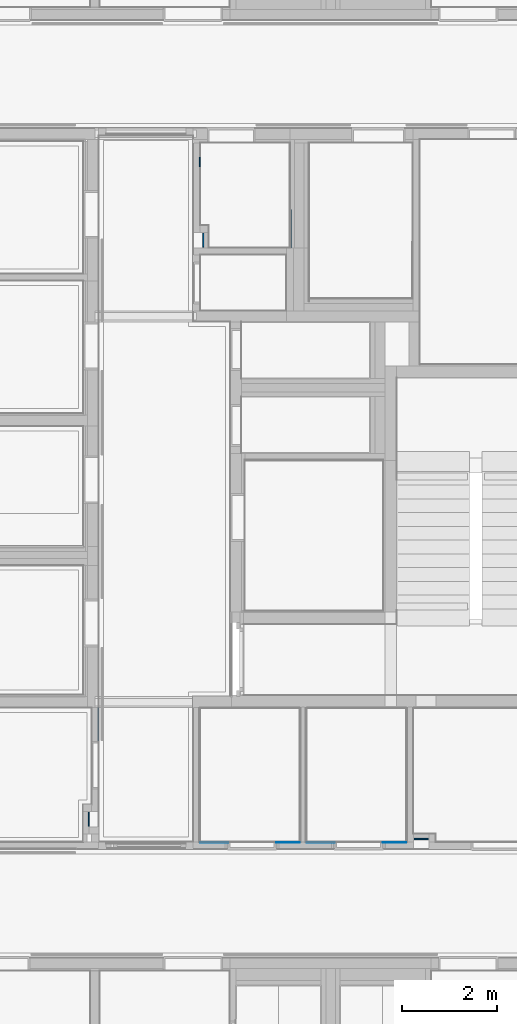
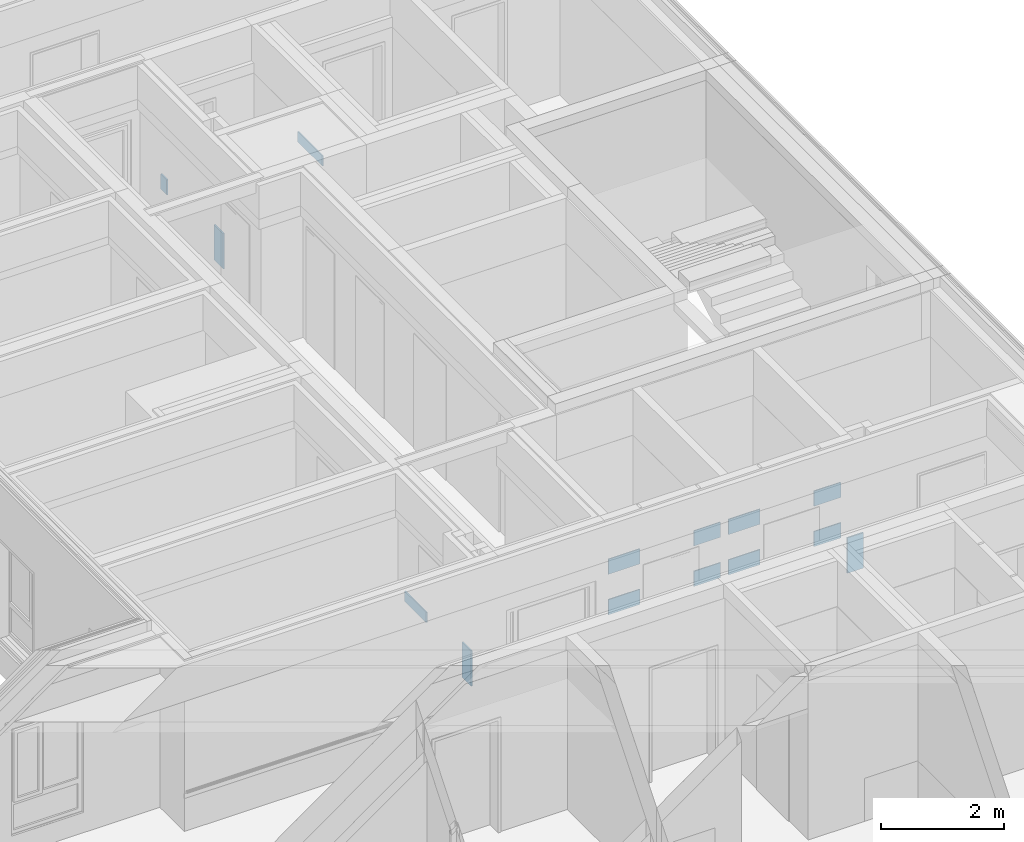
# One storey, part 152 of 222: 14 walls.
"""IFC4 building model written with IfcOpenShell, lengths in metres."""

import ifcopenshell
import ifcopenshell.guid

model = None  # the IFC model being written
_history = None  # IfcOwnerHistory: only IFC2X3 demands one
_inside = {}  # id of a spatial element -> (the spatial element, [elements in it])
_under = {}  # id of a project, library or spatial element -> (it, [spatial elements below it])
_declared = {}  # id of a project -> (the project, [libraries it declares])
_typed = {}  # id of a type object -> (the type object, [elements of that type])
_made_of = {}  # id of a material, layer set ... -> (it, [elements and type objects made of it])


def new_model(schema):
    """Start an empty IFC model of exactly this schema.

    Asked for "IFC4X3", IfcOpenShell would pick the latest addendum, in which some entities
    have other attributes; the version numbers below select the first issue.
    IFC2X3 requires an IfcOwnerHistory on every rooted entity: one is made here for all.
    """
    global model, _history
    if schema == "IFC4X3":
        model = ifcopenshell.file(schema_version=(4, 3, 0, 0))
    else:
        model = ifcopenshell.file(schema=schema)
    _inside.clear()
    _under.clear()
    _declared.clear()
    _typed.clear()
    _made_of.clear()
    _history = None
    if model.schema == "IFC2X3":
        org = make("IfcOrganization", Name="unknown")
        user = make(
            "IfcPersonAndOrganization",
            ThePerson=make("IfcPerson", FamilyName="unknown"),
            TheOrganization=org,
        )
        app = make(
            "IfcApplication",
            ApplicationDeveloper=org,
            Version="unknown",
            ApplicationFullName="unknown",
            ApplicationIdentifier="unknown",
        )
        _history = make(
            "IfcOwnerHistory",
            OwningUser=user,
            OwningApplication=app,
            ChangeAction="ADDED",
            CreationDate=0,
        )
    return model


def make(cls, **values):
    """One entity of the class cls with the attributes given. An attribute that is None is left unset."""
    return model.create_entity(
        cls, **{name: value for name, value in values.items() if value is not None}
    )


def entity(cls, *values):
    """Any entity or typed value of the class cls, its attributes in the order of the schema. None: left unset."""
    e = model.create_entity(cls)
    for i, value in enumerate(values):
        if value is not None:
            e[i] = value
    return e


def rooted(cls, **values):
    """An entity with a GlobalId (a new one), such as an element, a storey or a relation."""
    return make(cls, GlobalId=ifcopenshell.guid.new(), OwnerHistory=_history, **values)


def si_unit(unit_type, name, prefix=None):
    """IfcSIUnit, for example si_unit("LENGTHUNIT", "METRE", prefix="MILLI")."""
    return make("IfcSIUnit", UnitType=unit_type, Prefix=prefix, Name=name)


def converted_unit(unit_type, name, factor, base, dimensions=None, offset=None):
    """IfcConversionBasedUnit, such as the inch: factor (a typed value) times the base unit."""
    return make(
        "IfcConversionBasedUnit"
        if offset is None
        else "IfcConversionBasedUnitWithOffset",
        ConversionOffset=offset,
        Dimensions=None
        if dimensions is None
        else entity("IfcDimensionalExponents", *dimensions),
        UnitType=unit_type,
        Name=name,
        ConversionFactor=make(
            "IfcMeasureWithUnit", ValueComponent=factor, UnitComponent=base
        ),
    )


def derived_unit(unit_type, elements):
    """IfcDerivedUnit: a product of units, each with its exponent."""
    return make(
        "IfcDerivedUnit",
        Elements=[
            make("IfcDerivedUnitElement", Unit=unit, Exponent=power)
            for unit, power in elements
        ],
        UnitType=unit_type,
    )


def assignment(units):
    """IfcUnitAssignment: the units of a project."""
    return None if units is None else make("IfcUnitAssignment", Units=units)


def point(xyz):
    """IfcCartesianPoint."""
    return None if xyz is None else make("IfcCartesianPoint", Coordinates=xyz)


def direction(xyz):
    """IfcDirection."""
    return None if xyz is None else make("IfcDirection", DirectionRatios=xyz)


def frame(location, z_axis=None, x_axis=None):
    """IfcAxis2Placement3D, a coordinate frame: its origin and axes. An axis left out is left unset."""
    return make(
        "IfcAxis2Placement3D",
        Location=point(location),
        Axis=direction(z_axis),
        RefDirection=direction(x_axis),
    )


def origin():
    """The frame at (0, 0, 0) with its axes left unset."""
    return frame((0.0, 0.0, 0.0))


def place(relative_to, where):
    """IfcLocalPlacement: puts the frame where relative to a parent placement (None: the world)."""
    return make(
        "IfcLocalPlacement", PlacementRelTo=relative_to, RelativePlacement=where
    )


def context(
    kind, dimensions, precision=None, world=None, true_north=None, identifier=None
):
    """IfcGeometricRepresentationContext, for example the 3D "Model" context."""
    return make(
        "IfcGeometricRepresentationContext",
        ContextIdentifier=identifier,
        ContextType=kind,
        CoordinateSpaceDimension=dimensions,
        Precision=precision,
        WorldCoordinateSystem=world,
        TrueNorth=true_north,
    )


def subcontext(parent, identifier, kind, view, scale=None):
    """IfcGeometricRepresentationSubContext, for example "Body" below "Model"."""
    return make(
        "IfcGeometricRepresentationSubContext",
        ContextIdentifier=identifier,
        ContextType=kind,
        ParentContext=parent,
        TargetScale=scale,
        TargetView=view,
    )


def project(units=None, contexts=None):
    """IfcProject with its units and contexts."""
    return rooted(
        "IfcProject",
        Name="project",
        RepresentationContexts=contexts,
        UnitsInContext=assignment(units),
    )


def spatial(cls, under=None, at=None, **own):
    """A site, building, storey or space (cls), placed at a placement, below another one or the project."""
    s = rooted(cls, ObjectPlacement=at, **own)
    if under is not None:
        _under.setdefault(under.id(), (under, []))[1].append(s)
    return s


def faces_of(points, faces, orient=None, outer=None):
    """IfcFace entities. A face is a list of loops; a loop is a list of indices into points, from 0.

    orient and outer hold one flag for each loop. By default every Orientation is true, the
    first loop of a face is its IfcFaceOuterBound and the others are IfcFaceBound.
    """
    made = []
    for i, loops in enumerate(faces):
        bounds = []
        for j, loop in enumerate(loops):
            is_outer = j == 0 if outer is None else outer[i][j]
            bounds.append(
                make(
                    "IfcFaceOuterBound" if is_outer else "IfcFaceBound",
                    Bound=make("IfcPolyLoop", Polygon=[points[k] for k in loop]),
                    Orientation=True if orient is None else orient[i][j],
                )
            )
        made.append(make("IfcFace", Bounds=bounds))
    return made


def faceted_brep(points, faces, orient=None, outer=None, voids=None):
    """IfcFacetedBrep: a solid bounded by flat faces; with voids (closed shells), ...WithVoids."""
    shared = [point(p) for p in points]
    hull = make("IfcClosedShell", CfsFaces=faces_of(shared, faces, orient, outer))
    if voids is None:
        return make("IfcFacetedBrep", Outer=hull)
    return make(
        "IfcFacetedBrepWithVoids",
        Outer=hull,
        Voids=[
            make(cls, CfsFaces=faces_of(shared, fs, o, b)) for cls, fs, o, b in voids
        ],
    )


def shape(context_of_items, identifier, shape_type, items):
    """IfcShapeRepresentation: the items that make up one representation, for example the "Body"."""
    return make(
        "IfcShapeRepresentation",
        ContextOfItems=context_of_items,
        RepresentationIdentifier=identifier,
        RepresentationType=shape_type,
        Items=items,
    )


def made_of(thing, what):
    """Note that an element or type object is made of a material, layer set ...; save() writes the relation."""
    if what is not None:
        _made_of.setdefault(what.id(), (what, []))[1].append(thing)
    return thing


def element(
    cls,
    number,
    at=None,
    inside=None,
    cuts=None,
    type_object=None,
    material=None,
    context=None,
    identifier="Body",
    shape_type=None,
    held_by="IfcProductDefinitionShape",
    body=None,
    shapes=None,
    **own,
):
    """One element of the class cls, such as IfcWall. Its Tag is "e" and its number.

    at: its placement. inside: the storey or other place that contains it. cuts: it is an
    opening in that element (IfcRelVoidsElement). A single representation is given by context,
    identifier, shape_type and body (its items); several are given by shapes. held_by: the class
    of the entity that holds the representations. save() writes the other relations.
    """
    e = rooted(cls, Tag="e%d" % number, ObjectPlacement=at, **own)
    if body is not None:
        shapes = [shape(context, identifier, shape_type, body)]
    if shapes is not None:
        e.Representation = make(held_by, Representations=shapes)
    if inside is not None:
        _inside.setdefault(inside.id(), (inside, []))[1].append(e)
    if cuts is not None:
        rooted(
            "IfcRelVoidsElement", RelatingBuildingElement=cuts, RelatedOpeningElement=e
        )
    if type_object is not None:
        _typed.setdefault(type_object.id(), (type_object, []))[1].append(e)
    return made_of(e, material)


def aggregate(whole, parts):
    """IfcRelAggregates: a whole, such as a stair, and the parts it consists of."""
    return rooted("IfcRelAggregates", RelatingObject=whole, RelatedObjects=parts)


def save(model, path):
    """Write the relations noted so far, then the file.

    IfcRelAggregates (storeys below a building ...), IfcRelContainedInSpatialStructure (elements
    in a storey), IfcRelDefinesByType, IfcRelAssociatesMaterial and IfcRelDeclares: one each for
    every whole, place, type object, material and project.
    """
    for whole, parts in _under.values():
        aggregate(whole, parts)
    for where, things in _inside.values():
        rooted(
            "IfcRelContainedInSpatialStructure",
            RelatedElements=things,
            RelatingStructure=where,
        )
    for kind, things in _typed.values():
        rooted("IfcRelDefinesByType", RelatedObjects=things, RelatingType=kind)
    for what, things in _made_of.values():
        rooted("IfcRelAssociatesMaterial", RelatedObjects=things, RelatingMaterial=what)
    for by, libraries in _declared.values():
        rooted("IfcRelDeclares", RelatingContext=by, RelatedDefinitions=libraries)
    model.write(path)


model = new_model("IFC4")

# Units and contexts
model_context = context("Model", 3, precision=1e-05, world=origin())
body_context = subcontext(model_context, "Body", "Model", "MODEL_VIEW")
ifc_project = project(units=[si_unit("LENGTHUNIT", "METRE"), si_unit("AREAUNIT", "SQUARE_METRE"), si_unit("VOLUMEUNIT", "CUBIC_METRE"), si_unit("MASSUNIT", "GRAM", prefix="KILO"), converted_unit("PLANEANGLEUNIT", "DEGREE", entity("IfcPlaneAngleMeasure", 0.0174532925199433), si_unit("PLANEANGLEUNIT", "RADIAN"), dimensions=[0, 0, 0, 0, 0, 0, 0]), derived_unit("THERMALTRANSMITTANCEUNIT", [(si_unit("POWERUNIT", "WATT"), 1), (si_unit("THERMODYNAMICTEMPERATUREUNIT", "KELVIN"), -1), (si_unit("LENGTHUNIT", "METRE"), -2)]), derived_unit("VOLUMETRICFLOWRATEUNIT", [(si_unit("LENGTHUNIT", "METRE"), 3), (converted_unit("TIMEUNIT", "hour", entity("IfcTimeMeasure", 3600.0), si_unit("TIMEUNIT", "SECOND"), dimensions=[0, 0, 1, 0, 0, 0, 0]), -1), (si_unit("LENGTHUNIT", "METRE"), -1)])], contexts=[model_context])

# Site, building, storey
site_placement = place(None, origin())
site = spatial("IfcSite", under=ifc_project, at=site_placement, Name="Psychiatrie Neubau Wunstorf", CompositionType="ELEMENT")
building_placement = place(site_placement, origin())
building = spatial("IfcBuilding", under=site, at=building_placement, Name="Neubau H2 Stationsgebäude", CompositionType="ELEMENT")
storey_placement = place(building_placement, frame((0.0, 0.0, 3.6)))
storey = spatial("IfcBuildingStorey", under=building, at=storey_placement, Name="H2 Ebene +1", CompositionType="ELEMENT", Elevation=3.6)

# Walls
wall_1_placement = place(storey_placement, frame((98.2000002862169, 22.0290000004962, 1.21)))
element("IfcWall", 1, at=wall_1_placement, inside=storey, Name="WV 1.1", context=body_context, shape_type="Brep", body=[
    faceted_brep([(0.025, 0.2, 0.0), (0.0, 0.2, 0.0), (0.0, 0.0, 0.0), (0.025, 0.0, 0.0), (0.0, 0.2, 0.3), (0.025, 0.2, 0.3), (0.025, 0.0, 0.3), (0.0, 0.0, 0.3)], [[[0, 1, 2, 3]], [[4, 5, 6, 7]], [[1, 0, 5, 4]], [[2, 1, 4, 7]], [[3, 2, 7, 6]], [[0, 3, 6, 5]]], orient=[[False], [False], [False], [False], [False], [False]]),
])
wall_2_placement = place(storey_placement, frame((96.0574999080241, 9.91049989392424, 0.85)))
element("IfcWall", 2, at=wall_2_placement, inside=storey, Name="WV 1.1", context=body_context, shape_type="Brep", body=[
    faceted_brep([(0.0, 0.0, 0.0), (0.025, 0.0, 0.0), (0.025, 0.7, 0.0), (0.0, 0.7, 0.0), (0.025, 0.0, 0.2), (0.0, 0.0, 0.2), (0.0, 0.7, 0.2), (0.025, 0.7, 0.2)], [[[0, 1, 2, 3]], [[4, 5, 6, 7]], [[1, 0, 5, 4]], [[2, 1, 4, 7]], [[3, 2, 7, 6]], [[0, 3, 6, 5]]], orient=[[False], [False], [False], [False], [False], [False]]),
])
wall_3_placement = place(storey_placement, frame((100.119993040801, 20.3150058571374, 2.15)))
element("IfcWall", 3, at=wall_3_placement, inside=storey, Name="WV 1.1", context=body_context, shape_type="Brep", body=[
    faceted_brep([(0.025, 0.8, 0.0), (0.0, 0.8, 0.0), (0.0, 0.0, 0.0), (0.025, 0.0, 0.0), (0.0, 0.8, 0.2), (0.025, 0.8, 0.2), (0.025, 0.0, 0.2), (0.0, 0.0, 0.2)], [[[0, 1, 2, 3]], [[4, 5, 6, 7]], [[1, 0, 5, 4]], [[2, 1, 4, 7]], [[3, 2, 7, 6]], [[0, 3, 6, 5]]], orient=[[False], [False], [False], [False], [False], [False]]),
])
wall_4_placement = place(storey_placement, frame((102.7375, 7.82499989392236, 0.75)))
element("IfcWall", 4, at=wall_4_placement, inside=storey, Name="WV 1.1", context=body_context, shape_type="Brep", body=[
    faceted_brep([(0.3, 0.0, 0.0), (0.3, 0.025, 0.0), (0.0, 0.025, 0.0), (0.0, 0.0, 0.0), (0.3, 0.025, 0.7), (0.3, 0.0, 0.7), (0.0, 0.0, 0.7), (0.0, 0.025, 0.7)], [[[0, 1, 2, 3]], [[4, 5, 6, 7]], [[1, 0, 5, 4]], [[2, 1, 4, 7]], [[3, 2, 7, 6]], [[0, 3, 6, 5]]], orient=[[False], [False], [False], [False], [False], [False]]),
])
for number, where, name in (
    (5, (95.8575000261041, 8.10749989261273, 0.75), "WV 1.1"),
    (6, (98.2749981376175, 20.3275044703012, 0.75), "WV 1.1"),
):
    element("IfcWall", number, at=place(storey_placement, frame(where)), inside=storey, Name=name, context=body_context, shape_type="Brep", body=[
        faceted_brep([(0.025, 0.3, 0.0), (0.0, 0.3, 0.0), (0.0, 0.0, 0.0), (0.025, 0.0, 0.0), (0.0, 0.3, 0.7), (0.025, 0.3, 0.7), (0.025, 0.0, 0.7), (0.0, 0.0, 0.7)], [[[0, 1, 2, 3]], [[4, 5, 6, 7]], [[1, 0, 5, 4]], [[2, 1, 4, 7]], [[3, 2, 7, 6]], [[0, 3, 6, 5]]], orient=[[False], [False], [False], [False], [False], [False]]),
    ])
for number, where, name in (
    (7, (98.225, 7.75699989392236, 2.35), "WV 1.1"),
    (8, (98.225, 7.75699989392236, 1.55), "WV 1.1"),
):
    element("IfcWall", number, at=place(storey_placement, frame(where)), inside=storey, Name=name, context=body_context, shape_type="Brep", body=[
        faceted_brep([(0.59, 0.0, 0.0), (0.59, 0.018, 0.0), (0.0, 0.018, 0.0), (0.0, 0.0, 0.0), (0.59, 0.018, 0.3), (0.59, 0.0, 0.3), (0.0, 0.0, 0.3), (0.0, 0.018, 0.3)], [[[0, 1, 2, 3]], [[4, 5, 6, 7]], [[1, 0, 5, 4]], [[2, 1, 4, 7]], [[3, 2, 7, 6]], [[0, 3, 6, 5]]], orient=[[False], [False], [False], [False], [False], [False]]),
    ])
for number, where, name in (
    (9, (99.825, 7.75700025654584, 2.35), "WV 1.1"),
    (10, (99.825, 7.75700025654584, 1.55), "WV 1.1"),
):
    element("IfcWall", number, at=place(storey_placement, frame(where)), inside=storey, Name=name, context=body_context, shape_type="Brep", body=[
        faceted_brep([(0.5, 0.0, 0.0), (0.5, 0.018, 0.0), (0.0, 0.018, 0.0), (0.0, 0.0, 0.0), (0.5, 0.018, 0.3), (0.5, 0.0, 0.3), (0.0, 0.0, 0.3), (0.0, 0.018, 0.3)], [[[0, 1, 2, 3]], [[4, 5, 6, 7]], [[1, 0, 5, 4]], [[2, 1, 4, 7]], [[3, 2, 7, 6]], [[0, 3, 6, 5]]], orient=[[False], [False], [False], [False], [False], [False]]),
    ])
for number, where, name in (
    (11, (100.475, 7.75700025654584, 2.35), "WV 1.1"),
    (12, (100.475, 7.75700025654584, 1.55), "WV 1.1"),
):
    element("IfcWall", number, at=place(storey_placement, frame(where)), inside=storey, Name=name, context=body_context, shape_type="Brep", body=[
        faceted_brep([(0.59, 0.0, 0.0), (0.59, 0.018, 0.0), (0.0, 0.018, 0.0), (0.0, 0.0, 0.0), (0.59, 0.018, 0.3), (0.59, 0.0, 0.3), (0.0, 0.0, 0.3), (0.0, 0.018, 0.3)], [[[0, 1, 2, 3]], [[4, 5, 6, 7]], [[1, 0, 5, 4]], [[2, 1, 4, 7]], [[3, 2, 7, 6]], [[0, 3, 6, 5]]], orient=[[False], [False], [False], [False], [False], [False]]),
    ])
for number, where, name in (
    (13, (102.075, 7.75700025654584, 2.35), "WV 1.1"),
    (14, (102.075, 7.75700025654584, 1.55), "WV 1.1"),
):
    element("IfcWall", number, at=place(storey_placement, frame(where)), inside=storey, Name=name, context=body_context, shape_type="Brep", body=[
        faceted_brep([(0.5, 0.0, 0.0), (0.5, 0.018, 0.0), (0.0, 0.018, 0.0), (0.0, 0.0, 0.0), (0.5, 0.018, 0.3), (0.5, 0.0, 0.3), (0.0, 0.0, 0.3), (0.0, 0.018, 0.3)], [[[0, 1, 2, 3]], [[4, 5, 6, 7]], [[1, 0, 5, 4]], [[2, 1, 4, 7]], [[3, 2, 7, 6]], [[0, 3, 6, 5]]], orient=[[False], [False], [False], [False], [False], [False]]),
    ])

save(model, "model.ifc")
